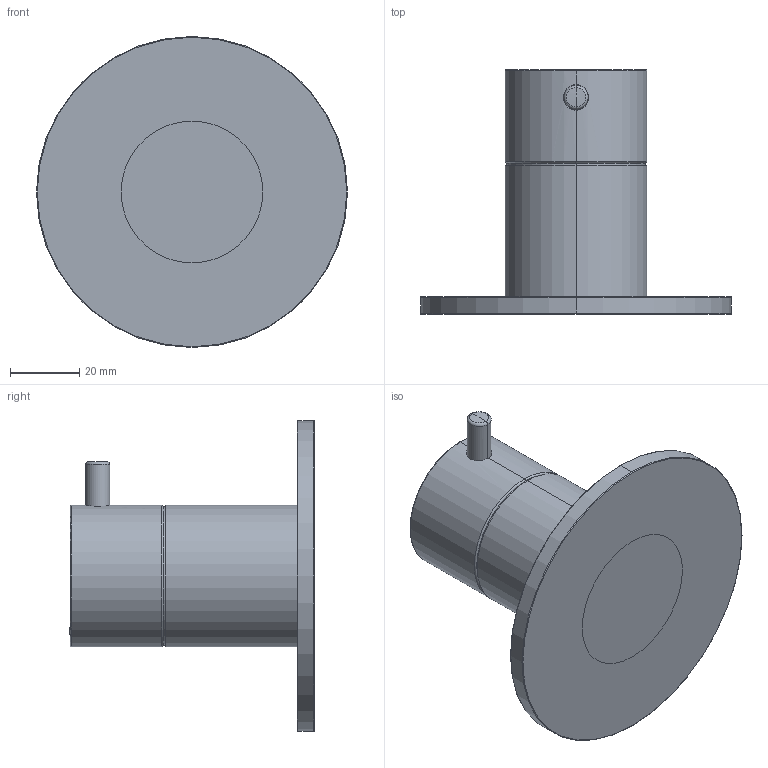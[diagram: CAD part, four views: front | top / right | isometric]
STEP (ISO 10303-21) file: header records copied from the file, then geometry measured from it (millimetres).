
FILE_DESCRIPTION((''),'2;1');
FILE_NAME('76709--00_SUB01_SW0001','2026-10-02T13:05:30',('simi1'),(''),'CREO PARAMETRIC BY PTC INC, 2022244','CREO PARAMETRIC BY PTC INC, 2022244','');
FILE_SCHEMA(('CONFIG_CONTROL_DESIGN'));
Length unit declared in the file: millimetre
Products named in the file (1): 76709--00_SUB01_SW0001
Bounding box: 90 x 70.8 x 90 mm (x, y, z)
Surface area: 26272.5 mm2 (no closed solid volume)
Topology: 0 solids, 12 shells, 33 faces, 210 edges, 184 vertices
Faces by surface type: plane 11, torus 10, cylinder 10, sphere 2
Entity records: 2109 total; most frequent: CARTESIAN_POINT 529, DIRECTION 310, ORIENTED_EDGE 253, EDGE_CURVE 208, VERTEX_POINT 184, VECTOR 160, LINE 160, AXIS2_PLACEMENT_3D 75
